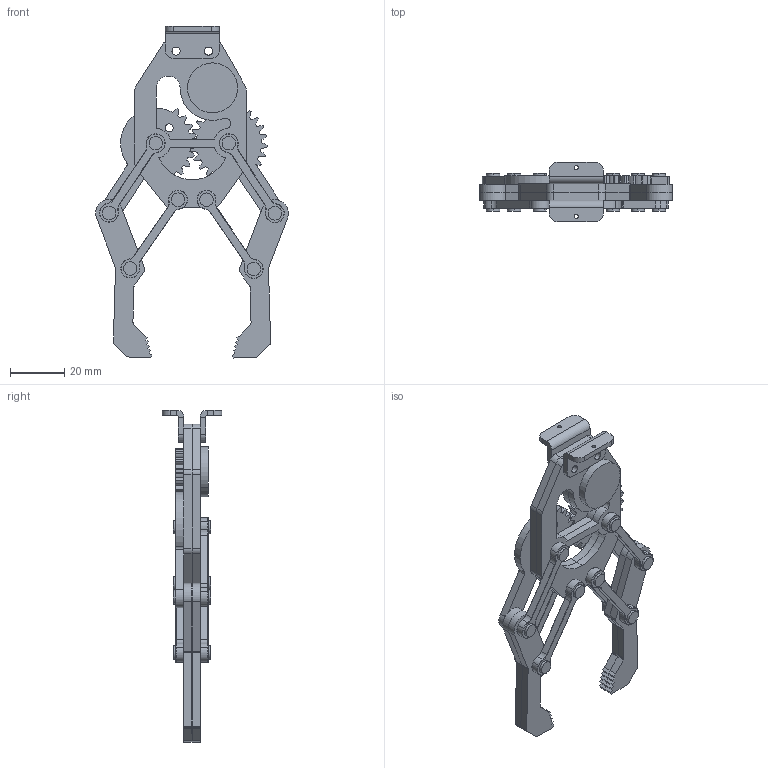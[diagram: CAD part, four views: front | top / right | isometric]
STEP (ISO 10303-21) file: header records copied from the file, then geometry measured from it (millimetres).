
FILE_DESCRIPTION (( 'STEP AP214' ), '1' );
FILE_NAME ('Robot Gripper.STEP', '2026-04-30T16:26:41', ( '' ), ( '' ), 'SwSTEP 2.0', 'SolidWorks 2022', '' );
FILE_SCHEMA (( 'AUTOMOTIVE_DESIGN' ));
Length unit declared in the file: millimetre
Products named in the file (10): Gear Link 1.STEP; pin.STEP; Gear Link 2.STEP; Gripper.STEP; Base Gear.STEP; Robot Gripper.STEP; link.STEP; Robot Gripper; Base Mounting Bracket.STEP; Base Plate.STEP
Assembly tree (26 placements, depth 3):
  Robot Gripper
    Robot Gripper.STEP
      Base Plate.STEP  x2
      Base Gear.STEP
      Base Mounting Bracket.STEP  x2
      Gripper.STEP  x4
      Gear Link 1.STEP
      link.STEP  x6
      pin.STEP  x8
      Gear Link 2.STEP
Bounding box: 71.26 x 22 x 122.75 mm (x, y, z)
Volume: 26015.2 mm3; surface area: 26586.6 mm2
Topology: 25 solids, 25 shells, 872 faces, 2204 edges, 1400 vertices
Faces by surface type: cylinder 392, plane 198, torus 168, bspline 114
Entity records: 13522 total; most frequent: CARTESIAN_POINT 3588, ORIENTED_EDGE 2104, DIRECTION 1830, EDGE_CURVE 1052, AXIS2_PLACEMENT_3D 706, VERTEX_POINT 688, EDGE_LOOP 432, LINE 418
